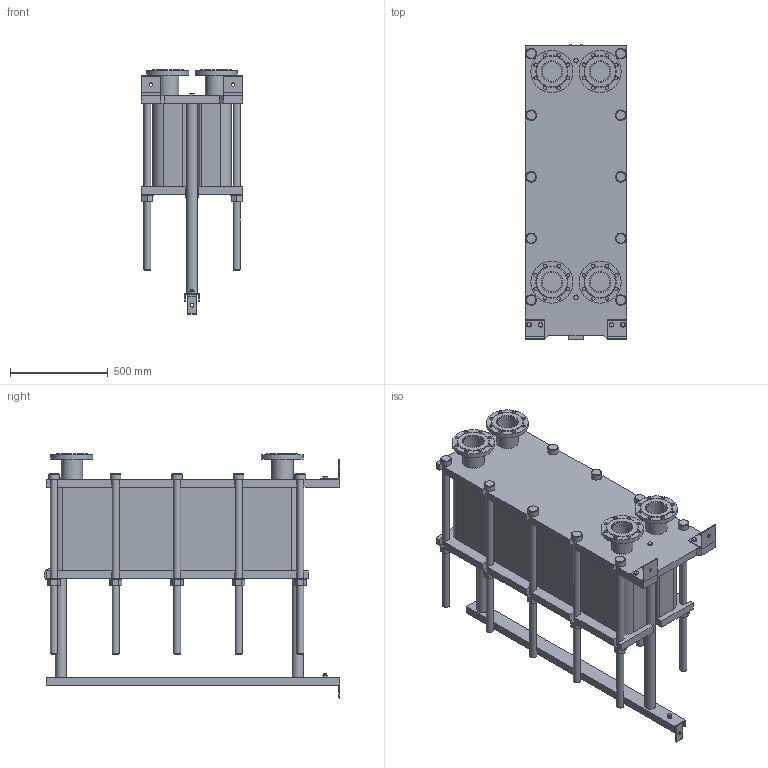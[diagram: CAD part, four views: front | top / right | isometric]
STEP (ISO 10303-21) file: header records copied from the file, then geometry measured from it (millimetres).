
FILE_DESCRIPTION(/* description */ (''),/* implementation_level */ '2;1');
FILE_NAME(/* name */ 'C:\Users\zhuro\Desktop\ENCO\TO\ЭН-04\ЭН-0,5-04-124-1.stp',/* time_stamp */ '2022-06-06T10:56:28+03:00',/* author */ ('zhuro'),/* organization */ (''),/* preprocessor_version */ 'ST-DEVELOPER v18.1',/* originating_system */ 'Autodesk Inventor 2022',/* authorisation */ '');
FILE_SCHEMA (('AUTOMOTIVE_DESIGN { 1 0 10303 214 3 1 1 }'));
Length unit declared in the file: millimetre
Products named in the file (1): ЭН-0,5-04-124-1
Bounding box: 520 x 1510 x 1247 mm (x, y, z)
Volume: 286293453 mm3; surface area: 8883024.2 mm2
Topology: 45 solids, 45 shells, 668 faces, 1611 edges, 1048 vertices
Faces by surface type: plane 457, cylinder 166, cone 39, torus 6
Full cylindrical faces by diameter (mm): 8 x4, 10 x2, 16 x8, 18 x35, 36 x25, 40 x2, 42 x1, 45 x4, 54 x10, 57 x2, 60 x10, 68 x2, 100 x4, 110 x8, 215 x4
Entity records: 23607 total; most frequent: CARTESIAN_POINT 7348, DIRECTION 3371, ORIENTED_EDGE 3142, EDGE_CURVE 1571, AXIS2_PLACEMENT_3D 1199, VERTEX_POINT 1044, LINE 973, VECTOR 973
